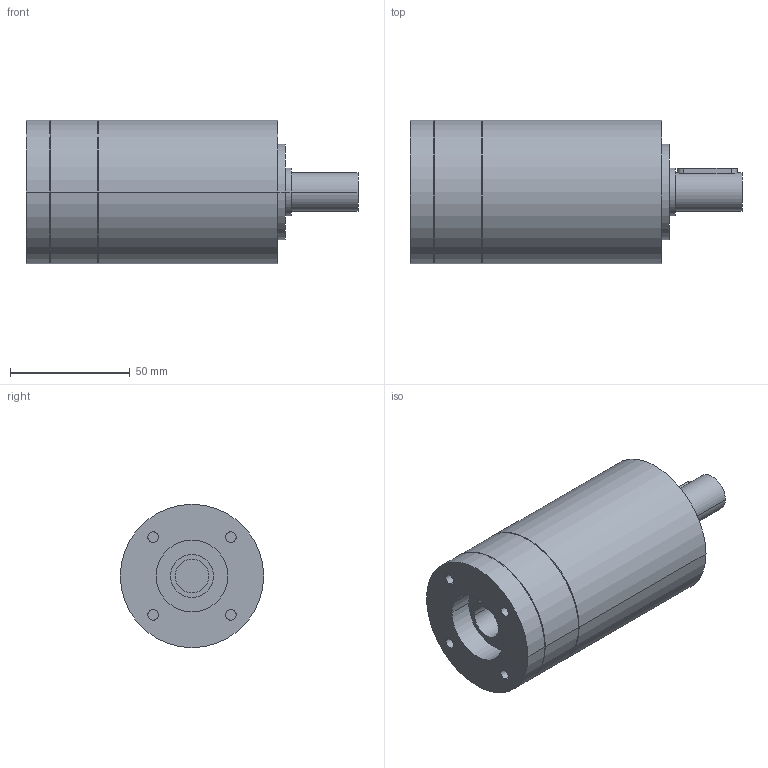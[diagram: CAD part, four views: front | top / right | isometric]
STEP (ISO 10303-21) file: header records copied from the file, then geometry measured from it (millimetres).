
FILE_DESCRIPTION(('CoCreate Modeling STEP Export'),'2;1');
FILE_NAME('GPR75_ig-9-12-16-20-24-30-36_16_B14_14_P21.stp','2014-08-25T16:03:32',(''),(''),'CoCreate Modeling STEP processor for AP214 (Solid Model)','CoCreate Modeling 16.00C 25-Feb-2009 (C) Parametric Technology GmbH','');
FILE_SCHEMA(('AUTOMOTIVE_DESIGN { 1 0 10303 214 1 1 1 1 }'));
Length unit declared in the file: millimetre
Products named in the file (2): GPR75_ig-9-12-16-20-24-30-36_16_B14_14_P21
Assembly tree (1 placements, depth 2):
  GPR75_ig-9-12-16-20-24-30-36_16_B14_14_P21
    GPR75_ig-9-12-16-20-24-30-36_16_B14_14_P21
Bounding box: 138.9 x 60 x 60 mm (x, y, z)
Volume: 296007 mm3; surface area: 31964.6 mm2
Topology: 1 solids, 1 shells, 77 faces, 196 edges, 140 vertices
Faces by surface type: cylinder 46, plane 25, cone 6
Entity records: 1966 total; most frequent: ORIENTED_EDGE 388, CARTESIAN_POINT 360, DIRECTION 254, EDGE_CURVE 194, VERTEX_POINT 140, AXIS2_PLACEMENT_3D 98, EDGE_LOOP 98, FACE_OUTER_BOUND 77
